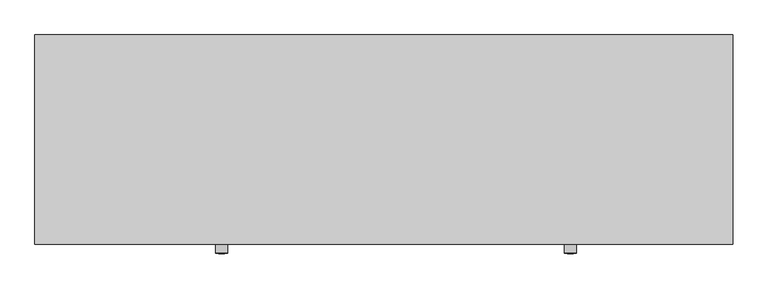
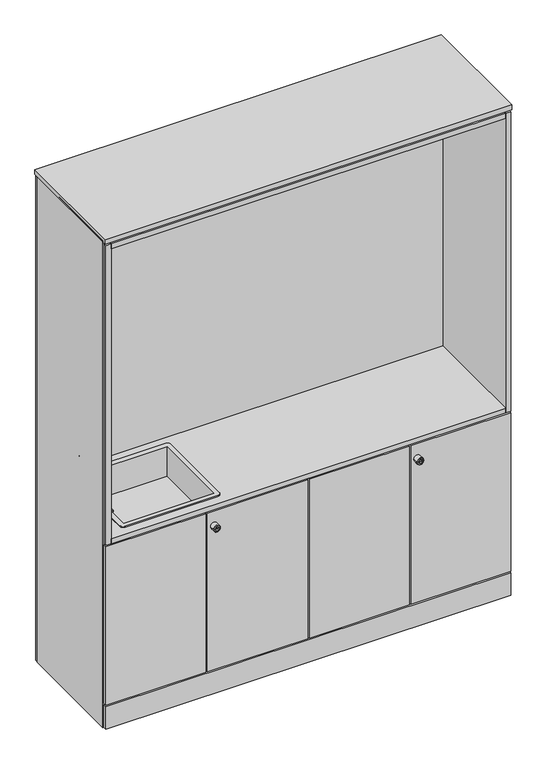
"""IFC4 building model written with IfcOpenShell, lengths in millimetres: furniture geometry, Furniture_Storage_Spacestor_SignatureStoragewall : Teapoint Breakout."""

from ifc_helpers import new_model, si_unit, point, frame, frame_2d, origin, origin_with_axes, place, context, project, spatial, polyline, circle_curve, ellipse_curve, trimmed, segment, composite_curve, outline, extrude, source, transform, mapped, element, save
from ifc_brep_helpers import plane_surface, cylinder_surface, revolved_surface, advanced_brep


def furniture_f89f9e7b(model_context):
    return source(origin(), model_context, "Body", "SolidModel", [
        extrude(outline(polyline([(1996.5, 559.0), (3.5, 559.0), (3.5, 577.0), (1996.5, 577.0), (1996.5, 559.0)])), origin_with_axes(), (0.0, 0.0, 1.0), 2518.0),
        extrude(outline(polyline([(1996.5, -18.0), (3.5, -18.0), (3.5, 0.0), (1996.5, 0.0), (1996.5, -18.0)])), origin_with_axes(), (0.0, 0.0, 1.0), 118.0),
        extrude(outline(polyline([(2000.0, -20.5), (0.0, -20.5), (0.0, 579.5), (2000.0, 579.5), (2000.0, -20.5)])), frame((0.0, 0.0, 2525.0), z_axis=(0.0, 0.0, 1.0), x_axis=(1.0, 0.0, 0.0)), (0.0, 0.0, 1.0), 25.5),
        extrude(outline(polyline([(2000.0, 0.0), (1989.0, 0.0), (1989.0, 559.0), (2000.0, 559.0), (2000.0, 0.0)])), origin_with_axes(), (0.0, 0.0, 1.0), 2532.5),
        extrude(outline(polyline([(11.0, 0.0), (0.0, 0.0), (0.0, 559.0), (11.0, 559.0), (11.0, 0.0)])), origin_with_axes(), (0.0, 0.0, 1.0), 2532.5),
        extrude(outline(polyline([(1989.0, 0.0), (11.0, 0.0), (11.0, 30.0), (1989.0, 30.0), (1989.0, 0.0)])), frame((0.0, 0.0, 942.5), z_axis=(0.0, 0.0, 1.0), x_axis=(1.0, 0.0, 0.0)), (0.0, 0.0, 1.0), 22.0),
        extrude(outline(polyline([(1003.5, -18.0), (1003.5, 0.0), (1496.5, 0.0), (1496.5, -18.0), (1003.5, -18.0)])), frame((0.0, 0.0, 125.0), z_axis=(0.0, 0.0, 1.0), x_axis=(1.0, 0.0, 0.0)), (0.0, 0.0, 1.0), 825.0),
        extrude(outline(polyline([(1996.5, -18.0), (1503.5, -18.0), (1503.5, 0.0), (1996.5, 0.0), (1996.5, -18.0)])), frame((0.0, 0.0, 125.0), z_axis=(0.0, 0.0, 1.0), x_axis=(1.0, 0.0, 0.0)), (0.0, 0.0, 1.0), 825.0),
        advanced_brep(
        [(1552.0, -45.3116344, 875.0), (1518.0, -45.3116344, 875.0), (1518.0, -18.0, 875.0), (1552.0, -18.0, 875.0), (1535.0, -18.0, 875.0), (1543.9747319, -46.3150077, 875.0), (1526.0252681, -46.3150077, 875.0), (1519.0033734, -46.3150077, 875.0), (1550.9966266, -46.3150077, 875.0), (1543.9747319, -47.4703043, 875.0), (1526.0252681, -47.4703043, 875.0), (1539.8245152, -47.4703043, 875.0), (1539.8245152, -47.4703043, 873.6366562), (1530.1754848, -47.4703043, 873.6366562), (1530.1754848, -47.4703043, 875.0), (1530.1754848, -47.4703043, 876.3633438), (1539.8245152, -47.4703043, 876.3633438), (1530.1754848, -27.8604291, 873.6366562), (1539.8245152, -27.8604291, 873.6366562), (1539.8245152, -27.8604291, 876.3633438), (1530.1754848, -27.8604291, 876.3633438)],
        [
            (0, 1, circle_curve(frame((1535.0, -45.3116344, 875.0), z_axis=(0.0, 1.0, 0.0), x_axis=(-1.0, 0.0, 0.0)), 17.0)),
            (1, 2),
            (2, 3, circle_curve(frame((1535.0, -18.0, 875.0), z_axis=(0.0, -1.0, 0.0), x_axis=(-1.0, 0.0, 0.0)), 17.0)),
            (3, 0),
            (1, 0, circle_curve(frame((1535.0, -45.3116344, 875.0), z_axis=(0.0, 1.0, 0.0), x_axis=(-1.0, 0.0, 0.0)), 17.0)),
            (3, 2, circle_curve(frame((1535.0, -18.0, 875.0), z_axis=(0.0, -1.0, 0.0), x_axis=(-1.0, 0.0, 0.0)), 17.0)),
            (2, 4),
            (4, 3),
            (5, 6, circle_curve(frame((1535.0, -46.3150077, 875.0), z_axis=(0.0, 1.0, 0.0), x_axis=(-1.0, 0.0, 0.0)), 8.9747319)),
            (6, 7),
            (7, 8, circle_curve(frame((1535.0, -46.3150077, 875.0), z_axis=(0.0, -1.0, 0.0), x_axis=(-1.0, 0.0, 0.0)), 15.9966266)),
            (8, 5),
            (6, 5, circle_curve(frame((1535.0, -46.3150077, 875.0), z_axis=(0.0, 1.0, 0.0), x_axis=(-1.0, 0.0, 0.0)), 8.9747319)),
            (8, 7, circle_curve(frame((1535.0, -46.3150077, 875.0), z_axis=(0.0, -1.0, 0.0), x_axis=(-1.0, 0.0, 0.0)), 15.9966266)),
            (0, 8, circle_curve(frame((1550.9966266, -45.3116344, 875.0), z_axis=(0.0, 0.0, -1.0), x_axis=(1.0, 0.0, 0.0)), 1.0033734)),
            (7, 1, circle_curve(frame((1519.0033734, -45.3116344, 875.0), z_axis=(0.0, 0.0, -1.0), x_axis=(-1.0, 0.0, 0.0)), 1.0033734)),
            (5, 9),
            (9, 10, circle_curve(frame((1535.0, -47.4703043, 875.0), z_axis=(0.0, 1.0, 0.0), x_axis=(-1.0, 0.0, 0.0)), 8.9747319)),
            (10, 6),
            (10, 9, circle_curve(frame((1535.0, -47.4703043, 875.0), z_axis=(0.0, 1.0, 0.0), x_axis=(-1.0, 0.0, 0.0)), 8.9747319)),
            (9, 11),
            (11, 12),
            (12, 13),
            (13, 14),
            (14, 10),
            (14, 15),
            (15, 16),
            (16, 11),
            (17, 18),
            (18, 19),
            (19, 20),
            (20, 17),
            (17, 13),
            (12, 18),
            (16, 19),
            (15, 20),
        ],
        [
            cylinder_surface(frame((1535.0, -2627.0581012, 875.0), z_axis=(0.0, -1.0, 0.0), x_axis=(-1.0, 0.0, 0.0)), 17.0),
            plane_surface(frame((1535.0, -18.0, 875.0), z_axis=(0.0, 1.0, 0.0), x_axis=(-1.0, 0.0, 0.0))),
            plane_surface(frame((1535.0, -46.3150077, 875.0), z_axis=(0.0, -1.0, 0.0), x_axis=(-1.0, 0.0, 0.0))),
            revolved_surface(trimmed(ellipse_curve(frame((1519.0033734, -45.3116344, 875.0), z_axis=(0.0, 0.0, 1.0), x_axis=(-1.0, 0.0, 0.0)), 1.0033734, 1.0033734), [point((1518.0, -45.3116344, 875.0))], [point((1519.0033734, -46.3150077, 875.0))], True, "CARTESIAN"), (1535.0, -2627.0581012, 875.0), (0.0, -1.0, 0.0)),
            cylinder_surface(frame((1535.0, -2627.0581012, 875.0), z_axis=(0.0, -1.0, 0.0), x_axis=(-1.0, 0.0, 0.0)), 8.9747319),
            plane_surface(frame((1535.0, -47.4703043, 875.0), z_axis=(0.0, -1.0, 0.0), x_axis=(-1.0, 0.0, 0.0))),
            plane_surface(frame((1539.4565249, -27.8604291, 873.6366562), z_axis=(0.0, -1.0, 0.0), x_axis=(-1.0, 0.0, 0.0))),
            plane_surface(frame((1530.1754848, -49.2046383, 873.6366562), z_axis=(0.0, 0.0, 1.0), x_axis=(0.0, 1.0, 0.0))),
            plane_surface(frame((1539.8245152, -49.2046383, 873.6366562), z_axis=(-1.0, 0.0, 0.0), x_axis=(0.0, 1.0, 0.0))),
            plane_surface(frame((1539.8245152, -49.2046383, 876.3633438), z_axis=(0.0, 0.0, -1.0), x_axis=(0.0, 1.0, 0.0))),
            plane_surface(frame((1530.1754848, -49.2046383, 876.3633438), z_axis=(1.0, 0.0, 0.0), x_axis=(0.0, 1.0, 0.0))),
        ],
        [
            (0, [[1, 2, 3, 4]]),
            (0, [[-2, 5, -4, 6]]),
            (1, [[-3, 7, 8]]),
            (1, [[-6, -8, -7]]),
            (2, [[9, 10, 11, 12]]),
            (2, [[-10, 13, -12, 14]]),
            (3, [[-1, 15, -11, 16]]),
            (3, [[-5, -16, -14, -15]]),
            (4, [[-9, 17, 18, 19]]),
            (4, [[-13, -19, 20, -17]]),
            (5, [[-18, 21, 22, 23, 24, 25]]),
            (5, [[-20, -25, 26, 27, 28, -21]]),
            (6, [[29, 30, 31, 32]]),
            (7, [[-29, 33, -23, 34]]),
            (8, [[-30, -34, -22, -28, 35]]),
            (9, [[-31, -35, -27, 36]]),
            (10, [[-32, -36, -26, -24, -33]]),
        ],
    ),
        extrude(outline(polyline([(1989.0, 0.0), (11.0, 0.0), (11.0, 559.0), (1989.0, 559.0), (1989.0, 0.0)])), frame((0.0, 0.0, 110.5), z_axis=(0.0, 0.0, 1.0), x_axis=(1.0, 0.0, 0.0)), (0.0, 0.0, 1.0), 22.0),
        extrude(outline(polyline([(1989.0, 0.0), (11.0, 0.0), (11.0, 559.0), (1989.0, 559.0), (1989.0, 0.0)])), frame((0.0, 0.0, 2510.0), z_axis=(0.0, 0.0, 1.0), x_axis=(1.0, 0.0, 0.0)), (0.0, 0.0, 1.0), 22.0),
        extrude(outline(polyline([(574.5, 449.0), (574.5, 49.0), (129.5, 49.0), (129.5, 449.0), (574.5, 449.0)]), holes=[composite_curve([segment(trimmed(circle_curve(frame_2d((229.5, 349.0)), 20.0), [point((209.5, 349.0))], [point((249.5, 349.0))], True, "CARTESIAN"), True, "CONTINUOUS"), segment(trimmed(circle_curve(frame_2d((229.5, 349.0)), 20.0), [point((249.5, 349.0))], [point((209.5, 349.0))], True, "CARTESIAN"), True, "CONTINUOUS")], self_intersect=False)]), frame((0.0, 0.0, 829.5), z_axis=(0.0, 0.0, 1.0), x_axis=(1.0, 0.0, 0.0)), (0.0, 0.0, 1.0), 4.0),
        extrude(outline(composite_curve([segment(trimmed(circle_curve(frame_2d((122.5, 456.0)), 16.0), [point((106.5, 456.0))], [point((122.5, 472.0))], False, "CARTESIAN"), True, "CONTINUOUS"), segment(polyline([(122.5, 472.0), (581.5, 472.0)]), True, "CONTINUOUS"), segment(trimmed(circle_curve(frame_2d((581.5, 456.0)), 16.0), [point((581.5, 472.0))], [point((597.5, 456.0))], False, "CARTESIAN"), True, "CONTINUOUS"), segment(polyline([(597.5, 456.0), (597.5, 42.0)]), True, "CONTINUOUS"), segment(trimmed(circle_curve(frame_2d((581.5, 42.0)), 16.0), [point((597.5, 42.0))], [point((581.5, 26.0))], False, "CARTESIAN"), True, "CONTINUOUS"), segment(polyline([(581.5, 26.0), (122.5, 26.0)]), True, "CONTINUOUS"), segment(trimmed(circle_curve(frame_2d((122.5, 42.0)), 16.0), [point((122.5, 26.0))], [point((106.5, 42.0))], False, "CARTESIAN"), True, "CONTINUOUS"), segment(polyline([(106.5, 42.0), (106.5, 456.0)]), True, "CONTINUOUS")], self_intersect=False), holes=[polyline([(574.5, 449.0), (129.5, 449.0), (129.5, 49.0), (574.5, 49.0), (574.5, 449.0)])]), frame((0.0, 0.0, 829.5), z_axis=(0.0, 0.0, 1.0), x_axis=(1.0, 0.0, 0.0)), (0.0, 0.0, 1.0), 158.0),
        extrude(outline(composite_curve([segment(trimmed(circle_curve(frame_2d((51.6443162, 298.4535162)), 20.0), [point((38.4905847, 313.5193499))], [point((54.012555, 318.3128073))], False, "CARTESIAN"), True, "CONTINUOUS"), segment(trimmed(circle_curve(frame_2d((65.0185837, 324.0001089)), 12.3886265), [point((54.012555, 318.3128073))], [point((66.6155314, 311.7148402))], True, "CARTESIAN"), True, "CONTINUOUS"), segment(trimmed(circle_curve(frame_2d((51.6443162, 298.4535162)), 20.0), [point((66.6155314, 311.7148402))], [point((71.5144928, 296.1784156))], False, "CARTESIAN"), True, "CONTINUOUS"), segment(trimmed(circle_curve(frame_2d((76.9912793, 285.0661306)), 12.3886265), [point((71.5144928, 296.1784156))], [point((64.7256464, 283.3247753))], True, "CARTESIAN"), True, "CONTINUOUS"), segment(trimmed(circle_curve(frame_2d((51.6443162, 298.4535162)), 20.0), [point((64.7256464, 283.3247753))], [point((49.0219776, 278.626178))], False, "CARTESIAN"), True, "CONTINUOUS"), segment(trimmed(circle_curve(frame_2d((37.9440265, 273.0802726)), 12.3886265), [point((49.0219776, 278.626178))], [point((36.50452, 285.3849826))], True, "CARTESIAN"), True, "CONTINUOUS"), segment(trimmed(circle_curve(frame_2d((51.6443162, 298.4535162)), 20.0), [point((36.50452, 285.3849826))], [point((31.8126259, 301.0427361))], False, "CARTESIAN"), True, "CONTINUOUS"), segment(trimmed(circle_curve(frame_2d((26.1858747, 312.0798434)), 12.3886265), [point((31.8126259, 301.0427361))], [point((38.4905847, 313.5193499))], True, "CARTESIAN"), True, "CONTINUOUS")], self_intersect=False)), frame((0.0, 0.0, 982.5), z_axis=(0.0, 0.0, 1.0), x_axis=(1.0, 0.0, 0.0)), (0.0, 0.0, 1.0), 40.0),
        advanced_brep(
        [(59.2290135, 342.8808735, 982.5), (76.8879654, 333.4914422, 982.5), (59.2290135, 342.8808735, 1182.5), (76.8879654, 333.4914422, 1182.5), (129.864821, 305.3231485, 1182.5), (147.5237728, 295.9337172, 1182.5), (147.5237728, 295.9337172, 1142.5), (129.864821, 305.3231485, 1142.5)],
        [
            (0, 1, circle_curve(frame((68.0584895, 338.1861579, 982.5), z_axis=(0.0, 0.0, -1.0), x_axis=(0.8829475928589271, -0.46947156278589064, 0.0)), 10.0)),
            (1, 0, circle_curve(frame((68.0584895, 338.1861579, 982.5), z_axis=(0.0, 0.0, -1.0), x_axis=(0.8829475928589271, -0.46947156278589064, 0.0)), 10.0)),
            (0, 2),
            (2, 3, circle_curve(frame((68.0584895, 338.1861579, 1182.5), z_axis=(0.0, 0.0, -1.0), x_axis=(0.8829475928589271, -0.46947156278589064, 0.0)), 10.0)),
            (3, 1),
            (3, 2, circle_curve(frame((68.0584895, 338.1861579, 1182.5), z_axis=(0.0, 0.0, -1.0), x_axis=(0.8829475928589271, -0.46947156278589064, 0.0)), 10.0)),
            (4, 3, circle_curve(frame((103.3763932, 319.4072953, 1182.5), z_axis=(-0.46947156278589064, -0.8829475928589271, 0.0), x_axis=(-0.8829475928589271, 0.46947156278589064, 0.0)), 30.0)),
            (2, 5, circle_curve(frame((103.3763932, 319.4072953, 1182.5), z_axis=(0.46947156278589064, 0.8829475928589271, 0.0), x_axis=(-0.8829475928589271, 0.46947156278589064, 0.0)), 50.0)),
            (5, 4, circle_curve(frame((138.6942969, 300.6284328, 1182.5), z_axis=(0.0, 0.0, 1.0000000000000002), x_axis=(-0.8829475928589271, 0.46947156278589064, 0.0)), 10.0)),
            (4, 5, circle_curve(frame((138.6942969, 300.6284328, 1182.5), z_axis=(0.0, 0.0, 1.0000000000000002), x_axis=(-0.8829475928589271, 0.46947156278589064, 0.0)), 10.0)),
            (6, 7, circle_curve(frame((138.6942969, 300.6284328, 1142.5), z_axis=(0.0, 0.0, -1.0), x_axis=(-0.882947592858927, 0.46947156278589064, 0.0)), 10.0)),
            (7, 6, circle_curve(frame((138.6942969, 300.6284328, 1142.5), z_axis=(0.0, 0.0, -1.0), x_axis=(-0.882947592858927, 0.46947156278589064, 0.0)), 10.0)),
            (5, 6),
            (7, 4),
        ],
        [
            plane_surface(frame((-20.6254098, 171.3960015, 982.5), z_axis=(0.0, 0.0, -1.0000000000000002), x_axis=(-0.46947156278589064, -0.8829475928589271, 0.0))),
            cylinder_surface(frame((68.0584895, 338.1861579, 982.5), z_axis=(0.0, 0.0, -1.0000000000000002), x_axis=(0.8829475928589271, -0.46947156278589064, 0.0)), 10.0),
            revolved_surface(trimmed(ellipse_curve(frame((68.0584895, 338.1861579, 1182.5), z_axis=(0.0, 0.0, -1.0000000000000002), x_axis=(0.8829475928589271, -0.46947156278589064, 0.0)), 10.0, 10.0), [point((59.2290135, 342.8808735, 1182.5))], [point((76.8879654, 333.4914422, 1182.5))], True, "CARTESIAN"), (14.6924939, 152.617139, 1182.5), (0.46947156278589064, 0.8829475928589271, 0.0)),
            revolved_surface(trimmed(ellipse_curve(frame((68.0584895, 338.1861579, 1182.5), z_axis=(0.0, 0.0, -1.0000000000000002), x_axis=(0.8829475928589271, -0.46947156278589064, 0.0)), 10.0, 10.0), [point((76.8879654, 333.4914422, 1182.5))], [point((59.2290135, 342.8808735, 1182.5))], True, "CARTESIAN"), (14.6924939, 152.617139, 1182.5), (0.46947156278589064, 0.8829475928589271, 0.0)),
            plane_surface(frame((50.0103976, 133.8382765, 1142.5), z_axis=(0.0, 0.0, -1.0), x_axis=(-0.46947156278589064, -0.882947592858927, 0.0))),
            cylinder_surface(frame((138.6942969, 300.6284328, 1182.5), z_axis=(0.0, 0.0, 1.0), x_axis=(-0.882947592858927, 0.46947156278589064, 0.0)), 10.0),
        ],
        [
            (0, [[1, 2]]),
            (1, [[-1, 3, 4, 5]]),
            (1, [[-2, -5, 6, -3]]),
            (2, [[7, -4, 8, 9]]),
            (3, [[-8, -6, -7, 10]]),
            (4, [[11, 12]]),
            (5, [[-9, 13, -12, 14]]),
            (5, [[-10, -14, -11, -13]]),
        ],
    ),
        extrude(outline(polyline([(1970.5, 516.0), (1970.5, -18.0), (29.5, -18.0), (29.5, 516.0), (1970.5, 516.0)]), holes=[polyline([(579.5, 454.0), (124.5, 454.0), (124.5, 44.0), (579.5, 44.0), (579.5, 454.0)])]), frame((0.0, 0.0, 957.5), z_axis=(0.0, 0.0, 1.0), x_axis=(1.0, 0.0, 0.0)), (0.0, 0.0, 1.0), 25.0),
        extrude(outline(polyline([(29.5, -18.0), (4.5, -18.0), (4.5, 516.0), (29.5, 516.0), (29.5, -18.0)])), frame((0.0, 0.0, 957.0), z_axis=(0.0, 0.0, 1.0), x_axis=(1.0, 0.0, 0.0)), (0.0, 0.0, 1.0), 1559.0),
        extrude(outline(polyline([(1995.5, -18.0), (1970.5, -18.0), (1970.5, 516.0), (1995.5, 516.0), (1995.5, -18.0)])), frame((0.0, 0.0, 957.0), z_axis=(0.0, 0.0, 1.0), x_axis=(1.0, 0.0, 0.0)), (0.0, 0.0, 1.0), 1559.0),
        extrude(outline(polyline([(1995.5, 516.0), (4.5, 516.0), (4.5, 534.0), (1995.5, 534.0), (1995.5, 516.0)])), frame((0.0, 0.0, 957.0), z_axis=(0.0, 0.0, 1.0), x_axis=(1.0, 0.0, 0.0)), (0.0, 0.0, 1.0), 1559.0),
        extrude(outline(polyline([(1970.5, -18.0), (29.5, -18.0), (29.5, 516.0), (1970.5, 516.0), (1970.5, -18.0)])), frame((0.0, 0.0, 2490.5), z_axis=(0.0, 0.0, 1.0), x_axis=(1.0, 0.0, 0.0)), (0.0, 0.0, 1.0), 25.0),
        extrude(outline(polyline([(3.5, -18.0), (3.5, 0.0), (496.5, 0.0), (496.5, -18.0), (3.5, -18.0)])), frame((0.0, 0.0, 125.0), z_axis=(0.0, 0.0, 1.0), x_axis=(1.0, 0.0, 0.0)), (0.0, 0.0, 1.0), 825.0),
        extrude(outline(polyline([(996.5, -18.0), (503.5, -18.0), (503.5, 0.0), (996.5, 0.0), (996.5, -18.0)])), frame((0.0, 0.0, 125.0), z_axis=(0.0, 0.0, 1.0), x_axis=(1.0, 0.0, 0.0)), (0.0, 0.0, 1.0), 825.0),
        advanced_brep(
        [(552.0, -45.3116344, 875.0), (518.0, -45.3116344, 875.0), (518.0, -18.0, 875.0), (552.0, -18.0, 875.0), (535.0, -18.0, 875.0), (543.9747319, -46.3150077, 875.0), (526.0252681, -46.3150077, 875.0), (519.0033734, -46.3150077, 875.0), (550.9966266, -46.3150077, 875.0), (543.9747319, -47.4703043, 875.0), (526.0252681, -47.4703043, 875.0), (539.8245152, -47.4703043, 875.0), (539.8245152, -47.4703043, 873.6366562), (530.1754848, -47.4703043, 873.6366562), (530.1754848, -47.4703043, 875.0), (530.1754848, -47.4703043, 876.3633438), (539.8245152, -47.4703043, 876.3633438), (530.1754848, -27.8604291, 873.6366562), (539.8245152, -27.8604291, 873.6366562), (539.8245152, -27.8604291, 876.3633438), (530.1754848, -27.8604291, 876.3633438)],
        [
            (0, 1, circle_curve(frame((535.0, -45.3116344, 875.0), z_axis=(0.0, 1.0, 0.0), x_axis=(-1.0, 0.0, 0.0)), 17.0)),
            (1, 2),
            (2, 3, circle_curve(frame((535.0, -18.0, 875.0), z_axis=(0.0, -1.0, 0.0), x_axis=(-1.0, 0.0, 0.0)), 17.0)),
            (3, 0),
            (1, 0, circle_curve(frame((535.0, -45.3116344, 875.0), z_axis=(0.0, 1.0, 0.0), x_axis=(-1.0, 0.0, 0.0)), 17.0)),
            (3, 2, circle_curve(frame((535.0, -18.0, 875.0), z_axis=(0.0, -1.0, 0.0), x_axis=(-1.0, 0.0, 0.0)), 17.0)),
            (2, 4),
            (4, 3),
            (5, 6, circle_curve(frame((535.0, -46.3150077, 875.0), z_axis=(0.0, 1.0, 0.0), x_axis=(-1.0, 0.0, 0.0)), 8.9747319)),
            (6, 7),
            (7, 8, circle_curve(frame((535.0, -46.3150077, 875.0), z_axis=(0.0, -1.0, 0.0), x_axis=(-1.0, 0.0, 0.0)), 15.9966266)),
            (8, 5),
            (6, 5, circle_curve(frame((535.0, -46.3150077, 875.0), z_axis=(0.0, 1.0, 0.0), x_axis=(-1.0, 0.0, 0.0)), 8.9747319)),
            (8, 7, circle_curve(frame((535.0, -46.3150077, 875.0), z_axis=(0.0, -1.0, 0.0), x_axis=(-1.0, 0.0, 0.0)), 15.9966266)),
            (0, 8, circle_curve(frame((550.9966266, -45.3116344, 875.0), z_axis=(0.0, 0.0, -1.0), x_axis=(1.0, 0.0, 0.0)), 1.0033734)),
            (7, 1, circle_curve(frame((519.0033734, -45.3116344, 875.0), z_axis=(0.0, 0.0, -1.0), x_axis=(-1.0, 0.0, 0.0)), 1.0033734)),
            (5, 9),
            (9, 10, circle_curve(frame((535.0, -47.4703043, 875.0), z_axis=(0.0, 1.0, 0.0), x_axis=(-1.0, 0.0, 0.0)), 8.9747319)),
            (10, 6),
            (10, 9, circle_curve(frame((535.0, -47.4703043, 875.0), z_axis=(0.0, 1.0, 0.0), x_axis=(-1.0, 0.0, 0.0)), 8.9747319)),
            (9, 11),
            (11, 12),
            (12, 13),
            (13, 14),
            (14, 10),
            (14, 15),
            (15, 16),
            (16, 11),
            (17, 18),
            (18, 19),
            (19, 20),
            (20, 17),
            (17, 13),
            (12, 18),
            (16, 19),
            (15, 20),
        ],
        [
            cylinder_surface(frame((535.0, -2627.0581012, 875.0), z_axis=(0.0, -1.0, 0.0), x_axis=(-1.0, 0.0, 0.0)), 17.0),
            plane_surface(frame((535.0, -18.0, 875.0), z_axis=(0.0, 1.0, 0.0), x_axis=(-1.0, 0.0, 0.0))),
            plane_surface(frame((535.0, -46.3150077, 875.0), z_axis=(0.0, -1.0, 0.0), x_axis=(-1.0, 0.0, 0.0))),
            revolved_surface(trimmed(ellipse_curve(frame((519.0033734, -45.3116344, 875.0), z_axis=(0.0, 0.0, 1.0), x_axis=(-1.0, 0.0, 0.0)), 1.0033734, 1.0033734), [point((518.0, -45.3116344, 875.0))], [point((519.0033734, -46.3150077, 875.0))], True, "CARTESIAN"), (535.0, -2627.0581012, 875.0), (0.0, -1.0, 0.0)),
            cylinder_surface(frame((535.0, -2627.0581012, 875.0), z_axis=(0.0, -1.0, 0.0), x_axis=(-1.0, 0.0, 0.0)), 8.9747319),
            plane_surface(frame((535.0, -47.4703043, 875.0), z_axis=(0.0, -1.0, 0.0), x_axis=(-1.0, 0.0, 0.0))),
            plane_surface(frame((539.4565249, -27.8604291, 873.6366562), z_axis=(0.0, -1.0, 0.0), x_axis=(-1.0, 0.0, 0.0))),
            plane_surface(frame((530.1754848, -49.2046383, 873.6366562), z_axis=(0.0, 0.0, 1.0), x_axis=(0.0, 1.0, 0.0))),
            plane_surface(frame((539.8245152, -49.2046383, 873.6366562), z_axis=(-1.0, 0.0, 0.0), x_axis=(0.0, 1.0, 0.0))),
            plane_surface(frame((539.8245152, -49.2046383, 876.3633438), z_axis=(0.0, 0.0, -1.0), x_axis=(0.0, 1.0, 0.0))),
            plane_surface(frame((530.1754848, -49.2046383, 876.3633438), z_axis=(1.0, 0.0, 0.0), x_axis=(0.0, 1.0, 0.0))),
        ],
        [
            (0, [[1, 2, 3, 4]]),
            (0, [[-2, 5, -4, 6]]),
            (1, [[-3, 7, 8]]),
            (1, [[-6, -8, -7]]),
            (2, [[9, 10, 11, 12]]),
            (2, [[-10, 13, -12, 14]]),
            (3, [[-1, 15, -11, 16]]),
            (3, [[-5, -16, -14, -15]]),
            (4, [[-9, 17, 18, 19]]),
            (4, [[-13, -19, 20, -17]]),
            (5, [[-18, 21, 22, 23, 24, 25]]),
            (5, [[-20, -25, 26, 27, 28, -21]]),
            (6, [[29, 30, 31, 32]]),
            (7, [[-29, 33, -23, 34]]),
            (8, [[-30, -34, -22, -28, 35]]),
            (9, [[-31, -35, -27, 36]]),
            (10, [[-32, -36, -26, -24, -33]]),
        ],
    ),
    ])


if __name__ == "__main__":
    model = new_model("IFC4")
    model_context = context("Model", 3, world=origin())
    ifc_project = project(units=[si_unit("LENGTHUNIT", "METRE", prefix="MILLI")], contexts=[model_context])
    site = spatial("IfcSite", under=ifc_project)
    building = spatial("IfcBuilding", under=site)
    placement = place(None, origin())
    furniture_shape = furniture_f89f9e7b(model_context)
    element("IfcFurniture", 1, ObjectType="Furniture_Storage_Spacestor_SignatureStoragewall : Teapoint Breakout", at=placement, inside=building, context=model_context, shape_type="MappedRepresentation", body=[
        mapped(furniture_shape, transform((0.0, 0.0, 0.0), x_axis=(1.0, 0.0, 0.0), y_axis=(0.0, 1.0, 0.0), z_axis=(0.0, 0.0, 1.0))),
    ])
    save(model, "model.ifc")
